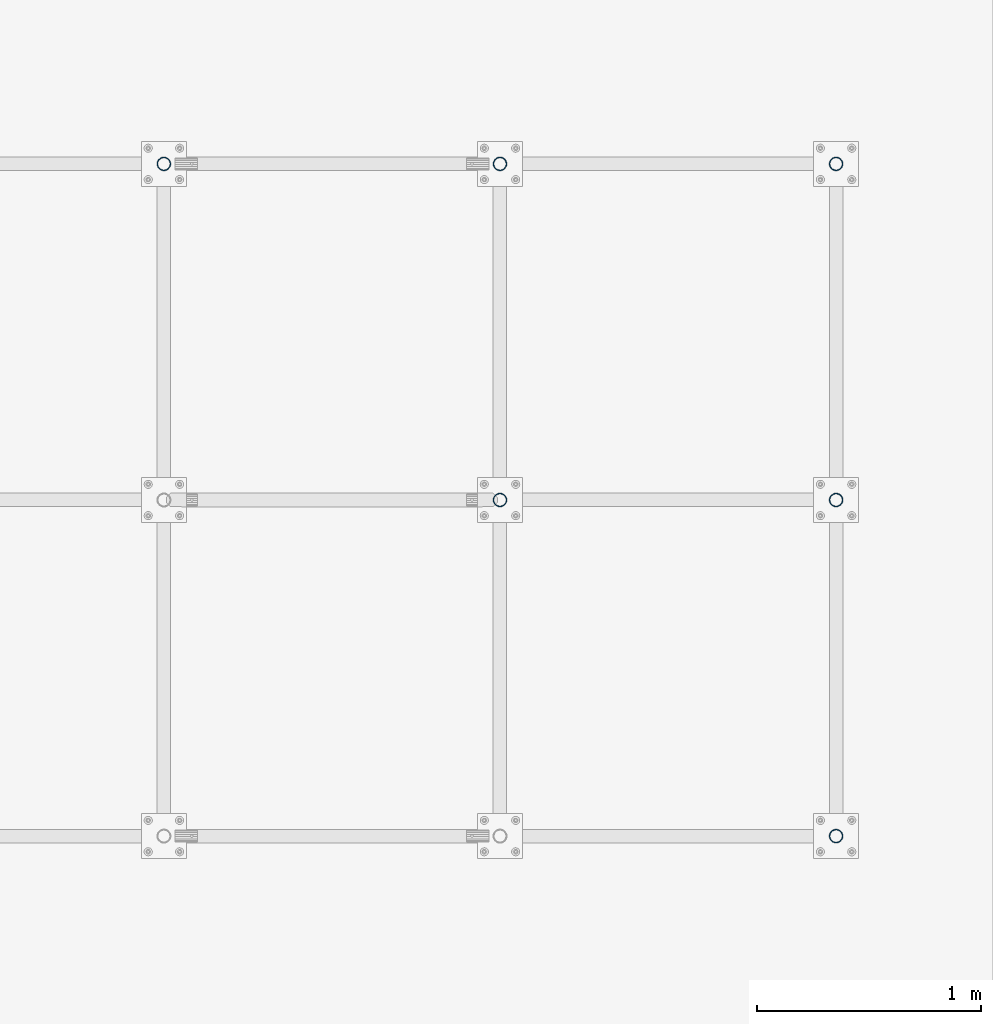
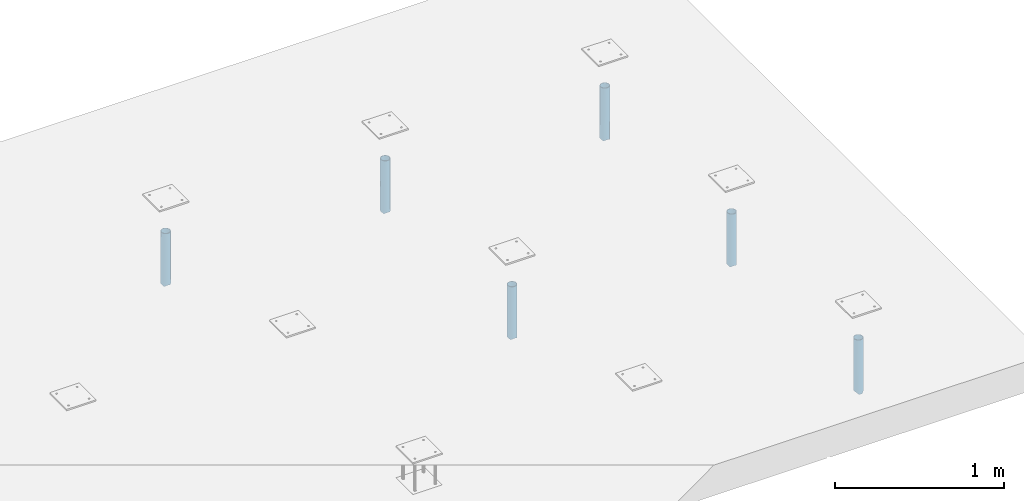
# One storey, part 2 of 30: 6 columns, 12 openings.
"""IFC2X3 building model written with IfcOpenShell, lengths in millimetres."""

import ifcopenshell
import ifcopenshell.guid

model = None  # the IFC model being written
_history = None  # IfcOwnerHistory: only IFC2X3 demands one
_inside = {}  # id of a spatial element -> (the spatial element, [elements in it])
_under = {}  # id of a project, library or spatial element -> (it, [spatial elements below it])
_declared = {}  # id of a project -> (the project, [libraries it declares])
_typed = {}  # id of a type object -> (the type object, [elements of that type])
_made_of = {}  # id of a material, layer set ... -> (it, [elements and type objects made of it])


def new_model(schema):
    """Start an empty IFC model of exactly this schema.

    Asked for "IFC4X3", IfcOpenShell would pick the latest addendum, in which some entities
    have other attributes; the version numbers below select the first issue.
    IFC2X3 requires an IfcOwnerHistory on every rooted entity: one is made here for all.
    """
    global model, _history
    if schema == "IFC4X3":
        model = ifcopenshell.file(schema_version=(4, 3, 0, 0))
    else:
        model = ifcopenshell.file(schema=schema)
    _inside.clear()
    _under.clear()
    _declared.clear()
    _typed.clear()
    _made_of.clear()
    _history = None
    if model.schema == "IFC2X3":
        org = make("IfcOrganization", Name="unknown")
        user = make(
            "IfcPersonAndOrganization",
            ThePerson=make("IfcPerson", FamilyName="unknown"),
            TheOrganization=org,
        )
        app = make(
            "IfcApplication",
            ApplicationDeveloper=org,
            Version="unknown",
            ApplicationFullName="unknown",
            ApplicationIdentifier="unknown",
        )
        _history = make(
            "IfcOwnerHistory",
            OwningUser=user,
            OwningApplication=app,
            ChangeAction="ADDED",
            CreationDate=0,
        )
    return model


def make(cls, **values):
    """One entity of the class cls with the attributes given. An attribute that is None is left unset."""
    return model.create_entity(
        cls, **{name: value for name, value in values.items() if value is not None}
    )


def entity(cls, *values):
    """Any entity or typed value of the class cls, its attributes in the order of the schema. None: left unset."""
    e = model.create_entity(cls)
    for i, value in enumerate(values):
        if value is not None:
            e[i] = value
    return e


def rooted(cls, **values):
    """An entity with a GlobalId (a new one), such as an element, a storey or a relation."""
    return make(cls, GlobalId=ifcopenshell.guid.new(), OwnerHistory=_history, **values)


def si_unit(unit_type, name, prefix=None):
    """IfcSIUnit, for example si_unit("LENGTHUNIT", "METRE", prefix="MILLI")."""
    return make("IfcSIUnit", UnitType=unit_type, Prefix=prefix, Name=name)


def converted_unit(unit_type, name, factor, base, dimensions=None, offset=None):
    """IfcConversionBasedUnit, such as the inch: factor (a typed value) times the base unit."""
    return make(
        "IfcConversionBasedUnit"
        if offset is None
        else "IfcConversionBasedUnitWithOffset",
        ConversionOffset=offset,
        Dimensions=None
        if dimensions is None
        else entity("IfcDimensionalExponents", *dimensions),
        UnitType=unit_type,
        Name=name,
        ConversionFactor=make(
            "IfcMeasureWithUnit", ValueComponent=factor, UnitComponent=base
        ),
    )


def assignment(units):
    """IfcUnitAssignment: the units of a project."""
    return None if units is None else make("IfcUnitAssignment", Units=units)


def point(xyz):
    """IfcCartesianPoint."""
    return None if xyz is None else make("IfcCartesianPoint", Coordinates=xyz)


def direction(xyz):
    """IfcDirection."""
    return None if xyz is None else make("IfcDirection", DirectionRatios=xyz)


def frame(location, z_axis=None, x_axis=None):
    """IfcAxis2Placement3D, a coordinate frame: its origin and axes. An axis left out is left unset."""
    return make(
        "IfcAxis2Placement3D",
        Location=point(location),
        Axis=direction(z_axis),
        RefDirection=direction(x_axis),
    )


def frame_2d(location, x_axis=None):
    """IfcAxis2Placement2D, a coordinate frame in the plane: its origin and x axis."""
    return make(
        "IfcAxis2Placement2D", Location=point(location), RefDirection=direction(x_axis)
    )


def origin():
    """The frame at (0, 0, 0) with its axes left unset."""
    return frame((0.0, 0.0, 0.0))


def origin_with_axes():
    """The frame at (0, 0, 0) with the z axis (0, 0, 1) and the x axis (1, 0, 0) written out."""
    return frame((0.0, 0.0, 0.0), z_axis=(0.0, 0.0, 1.0), x_axis=(1.0, 0.0, 0.0))


def origin_2d():
    """The frame at (0, 0) in the plane with its x axis left unset."""
    return frame_2d((0.0, 0.0))


def origin_2d_with_axis():
    """The frame at (0, 0) in the plane with the x axis (1, 0) written out."""
    return frame_2d((0.0, 0.0), x_axis=(1.0, 0.0))


def place(relative_to, where):
    """IfcLocalPlacement: puts the frame where relative to a parent placement (None: the world)."""
    return make(
        "IfcLocalPlacement", PlacementRelTo=relative_to, RelativePlacement=where
    )


def context(
    kind, dimensions, precision=None, world=None, true_north=None, identifier=None
):
    """IfcGeometricRepresentationContext, for example the 3D "Model" context."""
    return make(
        "IfcGeometricRepresentationContext",
        ContextIdentifier=identifier,
        ContextType=kind,
        CoordinateSpaceDimension=dimensions,
        Precision=precision,
        WorldCoordinateSystem=world,
        TrueNorth=true_north,
    )


def project(units=None, contexts=None):
    """IfcProject with its units and contexts."""
    return rooted(
        "IfcProject",
        Name="project",
        RepresentationContexts=contexts,
        UnitsInContext=assignment(units),
    )


def spatial(cls, under=None, at=None, **own):
    """A site, building, storey or space (cls), placed at a placement, below another one or the project."""
    s = rooted(cls, ObjectPlacement=at, **own)
    if under is not None:
        _under.setdefault(under.id(), (under, []))[1].append(s)
    return s


def circle_curve(where, radius):
    """IfcCircle in the frame where."""
    return make("IfcCircle", Position=where, Radius=radius)


def profile(cls, at=None, kind="AREA", **sizes):
    """A parametric profile (cls). Its sizes go by their IFC names, for example OverallWidth=200.0."""
    return make(cls, ProfileType=kind, Position=at, **sizes)


def hollow_circle(**sizes):
    """IfcCircleHollowProfileDef."""
    return profile("IfcCircleHollowProfileDef", **sizes)


def outline(outer, holes=None, kind="AREA"):
    """IfcArbitraryClosedProfileDef: a profile drawn as a closed curve; with holes, ...WithVoids."""
    if holes is None:
        return make("IfcArbitraryClosedProfileDef", ProfileType=kind, OuterCurve=outer)
    return make(
        "IfcArbitraryProfileDefWithVoids",
        ProfileType=kind,
        OuterCurve=outer,
        InnerCurves=holes,
    )


def extrude(swept, where, along, depth):
    """IfcExtrudedAreaSolid: the profile swept, set in the frame where, extruded along a direction by depth."""
    return make(
        "IfcExtrudedAreaSolid",
        SweptArea=swept,
        Position=where,
        ExtrudedDirection=direction(along),
        Depth=depth,
    )


def clip(a, b, op="DIFFERENCE"):
    """IfcBooleanClippingResult: the solid a cut by the half space b."""
    return make(
        "IfcBooleanClippingResult", Operator=op, FirstOperand=a, SecondOperand=b
    )


def halfspace(plane, agree):
    """IfcHalfSpaceSolid: all space on one side of the plane z = 0 of the frame plane."""
    return make(
        "IfcHalfSpaceSolid",
        BaseSurface=make("IfcPlane", Position=plane),
        AgreementFlag=agree,
    )


def shape(context_of_items, identifier, shape_type, items):
    """IfcShapeRepresentation: the items that make up one representation, for example the "Body"."""
    return make(
        "IfcShapeRepresentation",
        ContextOfItems=context_of_items,
        RepresentationIdentifier=identifier,
        RepresentationType=shape_type,
        Items=items,
    )


def material(Name=None, Category=None):
    """IfcMaterial."""
    return make("IfcMaterial", Name=Name, Category=Category)


def made_of(thing, what):
    """Note that an element or type object is made of a material, layer set ...; save() writes the relation."""
    if what is not None:
        _made_of.setdefault(what.id(), (what, []))[1].append(thing)
    return thing


def element(
    cls,
    number,
    at=None,
    inside=None,
    cuts=None,
    type_object=None,
    material=None,
    context=None,
    identifier="Body",
    shape_type=None,
    held_by="IfcProductDefinitionShape",
    body=None,
    shapes=None,
    **own,
):
    """One element of the class cls, such as IfcWall. Its Tag is "e" and its number.

    at: its placement. inside: the storey or other place that contains it. cuts: it is an
    opening in that element (IfcRelVoidsElement). A single representation is given by context,
    identifier, shape_type and body (its items); several are given by shapes. held_by: the class
    of the entity that holds the representations. save() writes the other relations.
    """
    e = rooted(cls, Tag="e%d" % number, ObjectPlacement=at, **own)
    if body is not None:
        shapes = [shape(context, identifier, shape_type, body)]
    if shapes is not None:
        e.Representation = make(held_by, Representations=shapes)
    if inside is not None:
        _inside.setdefault(inside.id(), (inside, []))[1].append(e)
    if cuts is not None:
        rooted(
            "IfcRelVoidsElement", RelatingBuildingElement=cuts, RelatedOpeningElement=e
        )
    if type_object is not None:
        _typed.setdefault(type_object.id(), (type_object, []))[1].append(e)
    return made_of(e, material)


def aggregate(whole, parts):
    """IfcRelAggregates: a whole, such as a stair, and the parts it consists of."""
    return rooted("IfcRelAggregates", RelatingObject=whole, RelatedObjects=parts)


def save(model, path):
    """Write the relations noted so far, then the file.

    IfcRelAggregates (storeys below a building ...), IfcRelContainedInSpatialStructure (elements
    in a storey), IfcRelDefinesByType, IfcRelAssociatesMaterial and IfcRelDeclares: one each for
    every whole, place, type object, material and project.
    """
    for whole, parts in _under.values():
        aggregate(whole, parts)
    for where, things in _inside.values():
        rooted(
            "IfcRelContainedInSpatialStructure",
            RelatedElements=things,
            RelatingStructure=where,
        )
    for kind, things in _typed.values():
        rooted("IfcRelDefinesByType", RelatedObjects=things, RelatingType=kind)
    for what, things in _made_of.values():
        rooted("IfcRelAssociatesMaterial", RelatedObjects=things, RelatingMaterial=what)
    for by, libraries in _declared.values():
        rooted("IfcRelDeclares", RelatingContext=by, RelatedDefinitions=libraries)
    model.write(path)


model = new_model("IFC2X3")

# Units and contexts
model_context = context("Model", 3, precision=1e-09, world=origin_with_axes())
ifc_project = project(units=[si_unit("LENGTHUNIT", "METRE", prefix="MILLI"), si_unit("AREAUNIT", "SQUARE_METRE"), si_unit("VOLUMEUNIT", "CUBIC_METRE"), converted_unit("PLANEANGLEUNIT", "DEGREE", entity("IfcPlaneAngleMeasure", 0.01745329), si_unit("PLANEANGLEUNIT", "RADIAN"), dimensions=[0, 0, 0, 0, 0, 0, 0])], contexts=[model_context])

# Site, building, storey
site_placement = place(None, origin_with_axes())
site = spatial("IfcSite", under=ifc_project, at=site_placement, Name="M?nsinger Stra?e, 81477 M?nchen", CompositionType="ELEMENT")
building_placement = place(site_placement, origin_with_axes())
building = spatial("IfcBuilding", under=site, at=building_placement, Name="Struktur 1", CompositionType="ELEMENT")
storey_placement = place(building_placement, origin_with_axes())
storey = spatial("IfcBuildingStorey", under=building, at=storey_placement, Name="Default Storey", CompositionType="ELEMENT", Elevation=0.0)

# Column, openings
ifc_material = material(Name="S235JR")
column_1_placement = place(None, frame((5906.315117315, 4491.2632594, 6067.361461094), z_axis=(0.0, 0.0, 1.0), x_axis=(1.0, 0.0, 0.0)))
column_1 = element("IfcColumn", 1, at=column_1_placement, inside=storey, material=ifc_material, Name="-", ObjectType="-", context=model_context, shape_type="Clipping", body=[
    clip(extrude(hollow_circle(Radius=30.15, WallThickness=2.6, at=origin_2d()), origin(), (0.0, 0.0, 1.0), 447.638538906), halfspace(frame((-5906.315117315, -4491.2632594, 54.889538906), z_axis=(0.0, 0.0, 1.0), x_axis=(1.0, 0.0, 0.0)), True)),
])
opening_1_placement = place(column_1_placement, frame((130.25, -30.151, 42.638538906), z_axis=(1.0, 0.0, 0.0), x_axis=(0.0, 1.0, 0.0)))
element("IfcOpeningElement", 2, at=opening_1_placement, cuts=column_1, ObjectType="Opening", context=model_context, shape_type="SweptSolid", body=[
    extrude(outline(circle_curve(frame_2d((30.151, 0.0), x_axis=(1.0, 0.0)), 30.151)), origin(), (0.0, 0.0, -1.0), 260.5),
])
opening_2_placement = place(column_1_placement, frame((30.151, 20.0, 42.638538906), z_axis=(0.0, 1.0, 0.0), x_axis=(-1.0, 0.0, 0.0)))
element("IfcOpeningElement", 3, at=opening_2_placement, cuts=column_1, ObjectType="Opening", context=model_context, shape_type="SweptSolid", body=[
    extrude(outline(circle_curve(frame_2d((30.151, 0.0), x_axis=(1.0, 0.0)), 30.151)), origin(), (0.0, 0.0, -1.0), 150.25),
])

column_2_placement = place(None, frame((7406.315117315, 4491.2632594, 6067.361461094), z_axis=(0.0, 0.0, 1.0), x_axis=(1.0, 0.0, 0.0)))
column_2 = element("IfcColumn", 4, at=column_2_placement, inside=storey, material=ifc_material, Name="-", ObjectType="-", context=model_context, shape_type="Clipping", body=[
    clip(extrude(hollow_circle(Radius=30.15, WallThickness=2.6, at=origin_2d()), origin(), (0.0, 0.0, 1.0), 447.638538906), halfspace(frame((-7406.315117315, -4491.2632594, 54.889538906), z_axis=(0.0, 0.0, 1.0), x_axis=(1.0, 0.0, 0.0)), True)),
])
opening_3_placement = place(column_2_placement, frame((130.25, -30.151, 42.638538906), z_axis=(1.0, 0.0, 0.0), x_axis=(0.0, 1.0, 0.0)))
element("IfcOpeningElement", 5, at=opening_3_placement, cuts=column_2, ObjectType="Opening", context=model_context, shape_type="SweptSolid", body=[
    extrude(outline(circle_curve(frame_2d((30.151, 0.0), x_axis=(1.0, 0.0)), 30.151)), origin(), (0.0, 0.0, -1.0), 260.5),
])
opening_4_placement = place(column_2_placement, frame((30.151, 20.0, 42.638538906), z_axis=(0.0, 1.0, 0.0), x_axis=(-1.0, 0.0, 0.0)))
element("IfcOpeningElement", 6, at=opening_4_placement, cuts=column_2, ObjectType="Opening", context=model_context, shape_type="SweptSolid", body=[
    extrude(outline(circle_curve(frame_2d((30.151, 0.0), x_axis=(1.0, 0.0)), 30.151)), origin(), (0.0, 0.0, -1.0), 150.25),
])

column_3_placement = place(None, frame((7406.315117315, 2991.2632594, 6067.361461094), z_axis=(0.0, 0.0, 1.0), x_axis=(0.0, 1.0, 0.0)))
column_3 = element("IfcColumn", 7, at=column_3_placement, inside=storey, material=ifc_material, Name="-", ObjectType="-", context=model_context, shape_type="Clipping", body=[
    clip(extrude(hollow_circle(Radius=30.15, WallThickness=2.6, at=origin_2d()), origin(), (0.0, 0.0, 1.0), 447.638538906), halfspace(frame((-2991.2632594, 7406.315117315, 54.889538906), z_axis=(0.0, 0.0, 1.0), x_axis=(0.0, -1.0, 0.0)), True)),
])
opening_5_placement = place(column_3_placement, frame((-130.25, 30.151, 42.638538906), z_axis=(-1.0, 0.0, 0.0), x_axis=(0.0, -1.0, 0.0)))
element("IfcOpeningElement", 8, at=opening_5_placement, cuts=column_3, ObjectType="Opening", context=model_context, shape_type="SweptSolid", body=[
    extrude(outline(circle_curve(frame_2d((30.151, 0.0), x_axis=(1.0, 0.0)), 30.151)), origin(), (0.0, 0.0, -1.0), 260.5),
])
opening_6_placement = place(column_3_placement, frame((-30.151, -130.25, 42.638538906), z_axis=(0.0, -1.0, 0.0), x_axis=(1.0, 0.0, 0.0)))
element("IfcOpeningElement", 9, at=opening_6_placement, cuts=column_3, ObjectType="Opening", context=model_context, shape_type="SweptSolid", body=[
    extrude(outline(circle_curve(frame_2d((30.151, 0.0), x_axis=(1.0, 0.0)), 30.151)), origin(), (0.0, 0.0, -1.0), 260.5),
])

column_4_placement = place(None, frame((8906.315117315, 4491.2632594, 6067.361461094), z_axis=(0.0, 0.0, -1.0), x_axis=(0.0, 1.0, 0.0)))
column_4 = element("IfcColumn", 10, at=column_4_placement, inside=storey, material=ifc_material, Name="-", ObjectType="-", context=model_context, shape_type="Clipping", body=[
    clip(extrude(hollow_circle(Radius=30.15, WallThickness=2.6, at=origin_2d()), origin(), (0.0, 0.0, -1.0), 447.638538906), halfspace(frame((-4491.2632594, -8906.315117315, -54.889538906), z_axis=(0.0, 0.0, -1.0), x_axis=(0.0, 1.0, 0.0)), True)),
])
opening_7_placement = place(column_4_placement, frame((21.35, 0.0, -42.638538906), z_axis=(-1.0, 0.0, 0.0), x_axis=(0.0, 1.0, 0.0)))
element("IfcOpeningElement", 11, at=opening_7_placement, cuts=column_4, ObjectType="Opening", context=model_context, shape_type="SweptSolid", body=[
    extrude(outline(circle_curve(origin_2d_with_axis(), 30.151)), origin(), (0.0, 0.0, 1.0), 151.6),
])
opening_8_placement = place(column_4_placement, frame((0.0, 21.35, -42.638538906), z_axis=(0.0, -1.0, 0.0), x_axis=(-1.0, 0.0, 0.0)))
element("IfcOpeningElement", 12, at=opening_8_placement, cuts=column_4, ObjectType="Opening", context=model_context, shape_type="SweptSolid", body=[
    extrude(outline(circle_curve(origin_2d_with_axis(), 30.151)), origin(), (0.0, 0.0, 1.0), 151.6),
])

column_5_placement = place(None, frame((8906.315117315, 2991.2632594, 6067.361461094), z_axis=(0.0, 0.0, -1.0), x_axis=(0.0, 1.0, 0.0)))
column_5 = element("IfcColumn", 13, at=column_5_placement, inside=storey, material=ifc_material, Name="-", ObjectType="-", context=model_context, shape_type="Clipping", body=[
    clip(extrude(hollow_circle(Radius=30.15, WallThickness=2.6, at=origin_2d()), origin(), (0.0, 0.0, -1.0), 447.638538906), halfspace(frame((-2991.2632594, -8906.315117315, -54.889538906), z_axis=(0.0, 0.0, -1.0), x_axis=(0.0, 1.0, 0.0)), True)),
])
opening_9_placement = place(column_5_placement, frame((130.25, 0.0, -42.638538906), z_axis=(-1.0, 0.0, 0.0), x_axis=(0.0, 1.0, 0.0)))
element("IfcOpeningElement", 14, at=opening_9_placement, cuts=column_5, ObjectType="Opening", context=model_context, shape_type="SweptSolid", body=[
    extrude(outline(circle_curve(origin_2d_with_axis(), 30.151)), origin(), (0.0, 0.0, 1.0), 260.5),
])
opening_10_placement = place(column_5_placement, frame((0.0, 20.0, -42.638538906), z_axis=(0.0, -1.0, 0.0), x_axis=(-1.0, 0.0, 0.0)))
element("IfcOpeningElement", 15, at=opening_10_placement, cuts=column_5, ObjectType="Opening", context=model_context, shape_type="SweptSolid", body=[
    extrude(outline(circle_curve(origin_2d_with_axis(), 30.151)), origin(), (0.0, 0.0, 1.0), 150.25),
])

column_6_placement = place(None, frame((8906.315117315, 1491.2632594, 6067.361461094), z_axis=(0.0, 0.0, 1.0), x_axis=(0.0, -1.0, 0.0)))
column_6 = element("IfcColumn", 16, at=column_6_placement, inside=storey, material=ifc_material, Name="-", ObjectType="-", context=model_context, shape_type="Clipping", body=[
    clip(extrude(hollow_circle(Radius=30.15, WallThickness=2.6, at=origin_2d()), origin(), (0.0, 0.0, 1.0), 447.638538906), halfspace(frame((1491.2632594, -8906.315117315, 54.889538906), z_axis=(0.0, 0.0, 1.0), x_axis=(0.0, 1.0, 0.0)), True)),
])
opening_11_placement = place(column_6_placement, frame((21.35, -30.151, 42.638538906), z_axis=(1.0, 0.0, 0.0), x_axis=(0.0, 1.0, 0.0)))
element("IfcOpeningElement", 17, at=opening_11_placement, cuts=column_6, ObjectType="Opening", context=model_context, shape_type="SweptSolid", body=[
    extrude(outline(circle_curve(frame_2d((30.151, 0.0), x_axis=(1.0, 0.0)), 30.151)), origin(), (0.0, 0.0, -1.0), 151.6),
])
opening_12_placement = place(column_6_placement, frame((30.151, 21.35, 42.638538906), z_axis=(0.0, 1.0, 0.0), x_axis=(-1.0, 0.0, 0.0)))
element("IfcOpeningElement", 18, at=opening_12_placement, cuts=column_6, ObjectType="Opening", context=model_context, shape_type="SweptSolid", body=[
    extrude(outline(circle_curve(frame_2d((30.151, 0.0), x_axis=(1.0, 0.0)), 30.151)), origin(), (0.0, 0.0, -1.0), 151.6),
])

save(model, "model.ifc")
